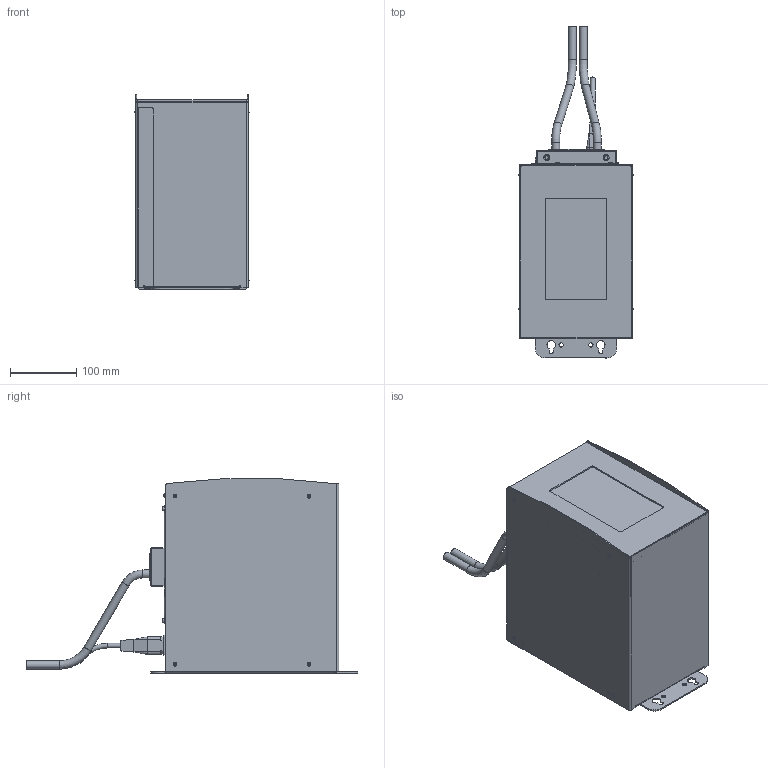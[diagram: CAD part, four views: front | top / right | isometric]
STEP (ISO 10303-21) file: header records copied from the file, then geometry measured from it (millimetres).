
FILE_DESCRIPTION((''),'2;1');
FILE_NAME('C:\Users\scheifl\Desktop\Produktkatalog\CAD-Daten\Steuerungen\eControl 3051.stp','2014-05-13T13:23:32',('scheifl'),(''),'Autodesk Inventor 2011','Autodesk Inventor 2011','');
FILE_SCHEMA(('AUTOMOTIVE_DESIGN { 1 0 10303 214 1 1 1 1 }'));
Length unit declared in the file: millimetre
Products named in the file (1): js 207_590_772-js eControl 3051
Bounding box: 172.67 x 502.7 x 294.74 mm (x, y, z)
Volume: 2360415.1 mm3; surface area: 1007005.5 mm2
Topology: 1 solids, 116 shells, 3433 faces, 8239 edges, 5282 vertices
Faces by surface type: plane 2380, cylinder 608, cone 292, torus 67, sphere 50, bspline 36
Full cylindrical faces by diameter (mm): 2.2 x16, 2.4 x2, 2.459 x4, 2.5 x24, 2.693 x10, 2.75 x6, 3 x38, 3.2 x4, 3.3 x8, 3.5 x30, 4 x32, 4.25 x10, 4.4 x4, 4.5 x32, 4.8 x2, 5 x4, 5.5 x25, 6 x20, 6.5 x7, 7 x9, 8 x18, 9 x4, 9.5 x4, 10 x3, 12 x10, 27 x1
Entity records: 99373 total; most frequent: CARTESIAN_POINT 19001, DIRECTION 15568, ORIENTED_EDGE 15166, EDGE_CURVE 7583, AXIS2_PLACEMENT_3D 5221, VERTEX_POINT 5143, VECTOR 5126, LINE 5126
